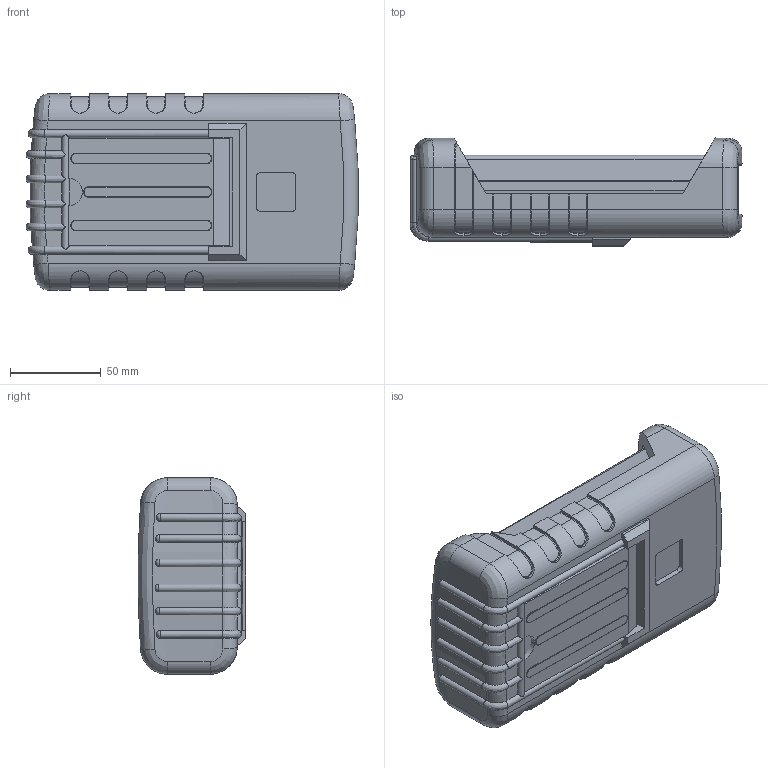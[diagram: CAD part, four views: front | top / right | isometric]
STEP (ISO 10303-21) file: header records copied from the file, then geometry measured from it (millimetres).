
FILE_DESCRIPTION (( 'STEP AP214' ), '1' );
FILE_NAME ('90-43-NO-E-R-BO.STEP', '2020-10-05T01:37:54', ( 'Rudy' ), ( '' ), 'SwSTEP 2.0', 'SolidWorks 2014', '' );
FILE_SCHEMA (( 'AUTOMOTIVE_DESIGN' ));
Length unit declared in the file: millimetre
Products named in the file (8): 90-43-NO-E-R-BO; 90 RBE Boot; RE 90 stand; 90 PCB NO; 90 expander; 90-Top Recess; 90-no bat-bottom
Assembly tree (7 placements, depth 3):
  90-43-NO-E-R-BO
    90-no bat-bottom
    90-Top Recess
    90 expander
    90 PCB NO
    90 RBE Boot
      90 RBE Boot
      RE 90 stand
Bounding box: 183.26 x 59.56 x 108.46 mm (x, y, z)
Volume: 415194.7 mm3; surface area: 211151.4 mm2
Topology: 6 solids, 6 shells, 771 faces, 2023 edges, 1295 vertices
Faces by surface type: plane 400, cylinder 217, bspline 76, cone 40, torus 33, sphere 5
Entity records: 30680 total; most frequent: CARTESIAN_POINT 11842, ORIENTED_EDGE 4038, DIRECTION 3674, EDGE_CURVE 2019, VERTEX_POINT 1295, AXIS2_PLACEMENT_3D 1262, VECTOR 1150, LINE 1150
